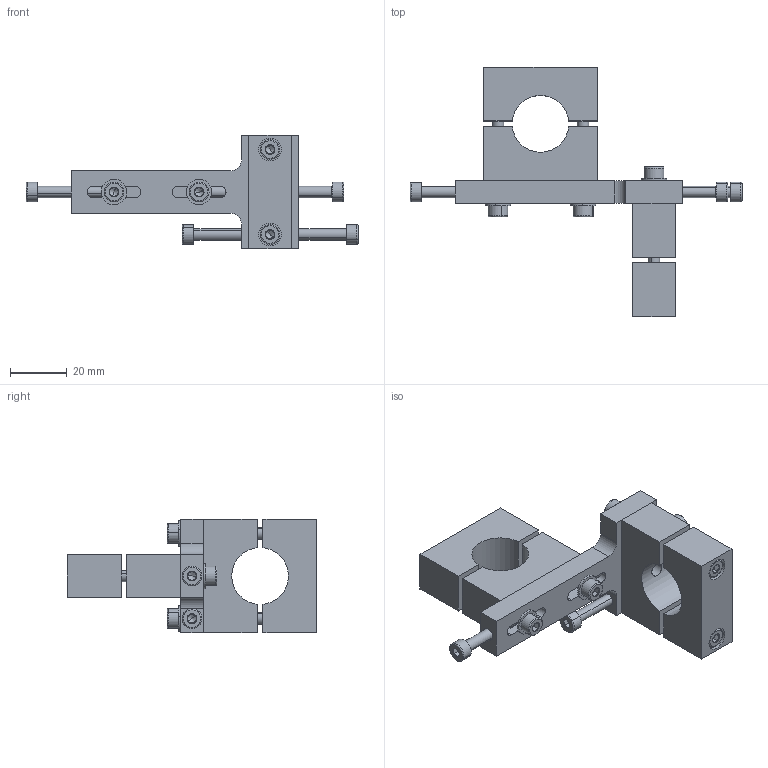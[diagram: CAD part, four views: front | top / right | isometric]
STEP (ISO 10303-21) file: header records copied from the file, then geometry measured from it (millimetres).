
FILE_DESCRIPTION (( 'STEP AP203' ), '1' );
FILE_NAME ('B3-HD.STEP', '2011-12-21T08:10:07', ( '' ), ( '' ), 'SwSTEP 2.0', 'SolidWorks 2010', '' );
FILE_SCHEMA (( 'CONFIG_CONTROL_DESIGN' ));
Length unit declared in the file: millimetre
Products named in the file (7): B3-HD_DIN 912 8.8 VZ M04.0_M4 x 25; B3-HD_mec005450 Halterung; B3-HD; B3-HD_DIN 912 8.8 VZ M04.0_M4 x 45; B3-HD_DIN 912 8.8 VZ M04.0_M4 x 16; B3-HD_DIN 125 VZ M4_M04.0; B3-HD_mec005460 Justageplatte
Assembly tree (19 placements, depth 2):
  B3-HD
    B3-HD_DIN 912 8.8 VZ M04.0_M4 x 25  x7
    B3-HD_DIN 912 8.8 VZ M04.0_M4 x 16  x4
    B3-HD_DIN 125 VZ M4_M04.0  x4
    B3-HD_mec005450 Halterung  x2
    B3-HD_mec005460 Justageplatte
    B3-HD_DIN 912 8.8 VZ M04.0_M4 x 45
Bounding box: 117 x 88 x 40 mm (x, y, z)
Volume: 51371.7 mm3; surface area: 27244.6 mm2
Topology: 21 solids, 21 shells, 503 faces, 1139 edges, 680 vertices
Faces by surface type: plane 236, cylinder 119, cone 100, torus 48
Entity records: 6732 total; most frequent: CARTESIAN_POINT 1306, DIRECTION 979, ORIENTED_EDGE 846, EDGE_CURVE 423, AXIS2_PLACEMENT_3D 380, VERTEX_POINT 261, LINE 219, VECTOR 219
